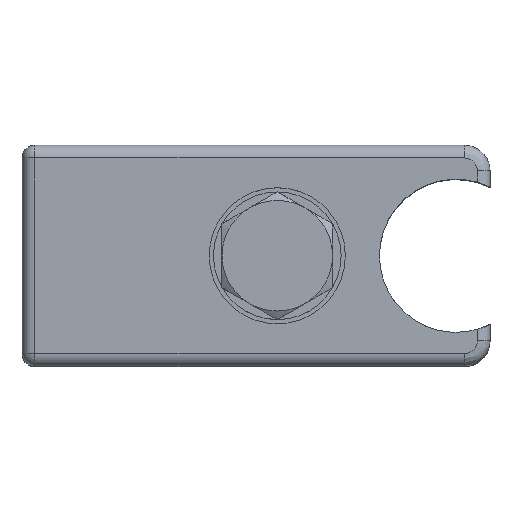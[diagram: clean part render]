
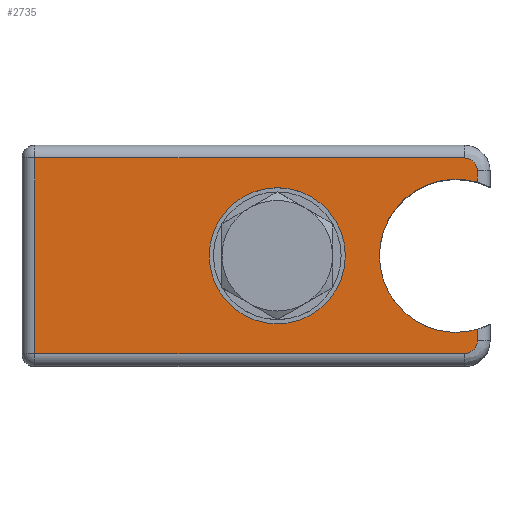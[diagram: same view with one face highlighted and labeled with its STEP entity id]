
A CAD part, top view. The second image highlights one B-rep face of the part: STEP entity #2735.
In plain terms, the highlighted planar face has unit normal (0, 0, 1).
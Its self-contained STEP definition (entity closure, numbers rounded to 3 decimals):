
#2222=CARTESIAN_POINT('',(272.163,420.947,30.0));
#2223=VERTEX_POINT('',#2222);
#2224=CARTESIAN_POINT('',(280.163,420.947,30.0));
#2225=DIRECTION('',(0.0,0.0,-1.0));
#2226=DIRECTION('',(1.0,0.0,0.0));
#2227=AXIS2_PLACEMENT_3D('',#2224,#2225,#2226);
#2228=CIRCLE('',#2227,8.0);
#2229=EDGE_CURVE('',#2223,#2223,#2228,.T.);
#2253=CARTESIAN_POINT('',(251.663,409.447,30.0));
#2254=VERTEX_POINT('',#2253);
#2284=CARTESIAN_POINT('',(251.663,432.447,30.0));
#2285=VERTEX_POINT('',#2284);
#2309=CARTESIAN_POINT('',(302.163,432.447,30.0));
#2310=VERTEX_POINT('',#2309);
#2320=CARTESIAN_POINT('',(251.663,432.447,30.0));
#2321=DIRECTION('',(1.0,0.0,0.0));
#2322=VECTOR('',#2321,50.5);
#2323=LINE('',#2320,#2322);
#2324=EDGE_CURVE('',#2285,#2310,#2323,.T.);
#2337=CARTESIAN_POINT('',(251.663,409.447,30.0));
#2338=DIRECTION('',(0.0,1.0,0.0));
#2339=VECTOR('',#2338,23.0);
#2340=LINE('',#2337,#2339);
#2341=EDGE_CURVE('',#2254,#2285,#2340,.T.);
#2399=CARTESIAN_POINT('',(303.663,430.947,30.0));
#2400=VERTEX_POINT('',#2399);
#2410=CARTESIAN_POINT('',(302.163,430.947,30.0));
#2411=DIRECTION('',(0.0,0.0,-1.));
#2412=DIRECTION('',(0.707,0.707,0.0));
#2413=AXIS2_PLACEMENT_3D('',#2410,#2411,#2412);
#2414=CIRCLE('',#2413,1.5);
#2415=EDGE_CURVE('',#2310,#2400,#2414,.T.);
#2444=CARTESIAN_POINT('',(302.163,409.447,30.0));
#2445=VERTEX_POINT('',#2444);
#2453=CARTESIAN_POINT('',(302.163,409.447,30.0));
#2454=DIRECTION('',(-1.0,0.0,0.0));
#2455=VECTOR('',#2454,50.5);
#2456=LINE('',#2453,#2455);
#2457=EDGE_CURVE('',#2445,#2254,#2456,.T.);
#2474=CARTESIAN_POINT('',(303.663,429.592,30.0));
#2475=VERTEX_POINT('',#2474);
#2498=CARTESIAN_POINT('',(303.663,430.947,30.0));
#2499=DIRECTION('',(0.0,-1.0,0.0));
#2500=VECTOR('',#2499,1.354);
#2501=LINE('',#2498,#2500);
#2502=EDGE_CURVE('',#2400,#2475,#2501,.T.);
#2562=CARTESIAN_POINT('',(303.663,410.947,30.0));
#2563=VERTEX_POINT('',#2562);
#2571=CARTESIAN_POINT('',(302.163,410.947,30.0));
#2572=DIRECTION('',(0.0,0.0,-1.));
#2573=DIRECTION('',(0.707,-0.707,0.0));
#2574=AXIS2_PLACEMENT_3D('',#2571,#2572,#2573);
#2575=CIRCLE('',#2574,1.5);
#2576=EDGE_CURVE('',#2563,#2445,#2575,.T.);
#2596=CARTESIAN_POINT('',(303.663,412.301,30.0));
#2597=VERTEX_POINT('',#2596);
#2611=CARTESIAN_POINT('',(303.663,412.301,30.0));
#2612=DIRECTION('',(0.0,-1.0,0.0));
#2613=VECTOR('',#2612,1.354);
#2614=LINE('',#2611,#2613);
#2615=EDGE_CURVE('',#2597,#2563,#2614,.T.);
#2691=CARTESIAN_POINT('',(301.163,420.947,30.0));
#2692=DIRECTION('',(0.0,0.0,-1.0));
#2693=DIRECTION('',(1.0,0.0,0.0));
#2694=AXIS2_PLACEMENT_3D('',#2691,#2692,#2693);
#2695=CIRCLE('',#2694,9.0);
#2696=EDGE_CURVE('',#2597,#2475,#2695,.T.);
#2717=CARTESIAN_POINT('',(277.663,420.947,30.0));
#2718=DIRECTION('',(0.0,0.0,1.0));
#2719=DIRECTION('',(1.0,0.0,0.0));
#2720=AXIS2_PLACEMENT_3D('',#2717,#2718,#2719);
#2721=PLANE('',#2720);
#2722=ORIENTED_EDGE('',*,*,#2615,.F.);
#2723=ORIENTED_EDGE('',*,*,#2696,.T.);
#2724=ORIENTED_EDGE('',*,*,#2502,.F.);
#2725=ORIENTED_EDGE('',*,*,#2415,.F.);
#2726=ORIENTED_EDGE('',*,*,#2324,.F.);
#2727=ORIENTED_EDGE('',*,*,#2341,.F.);
#2728=ORIENTED_EDGE('',*,*,#2457,.F.);
#2729=ORIENTED_EDGE('',*,*,#2576,.F.);
#2730=EDGE_LOOP('',(#2722,#2723,#2724,#2725,#2726,#2727,#2728,#2729));
#2731=FACE_OUTER_BOUND('',#2730,.T.);
#2732=ORIENTED_EDGE('',*,*,#2229,.T.);
#2733=EDGE_LOOP('',(#2732));
#2734=FACE_BOUND('',#2733,.T.);
#2735=ADVANCED_FACE('',(#2731,#2734),#2721,.T.);
